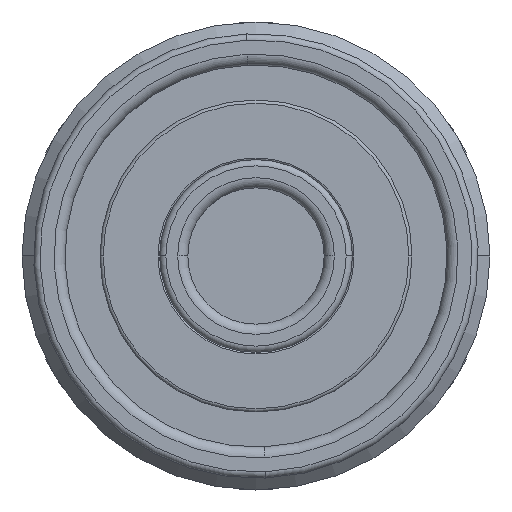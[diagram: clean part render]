
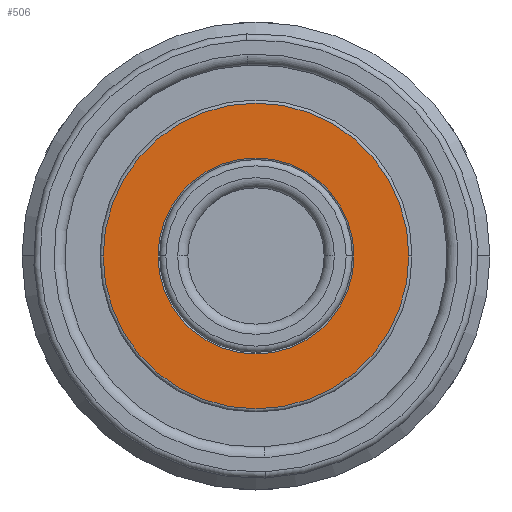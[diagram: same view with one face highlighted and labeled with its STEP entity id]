
A CAD part, front view. The second image highlights one B-rep face of the part: STEP entity #506.
In plain terms, the highlighted planar face has unit normal (0, -1, 0).
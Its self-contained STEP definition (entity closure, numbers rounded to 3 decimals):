
#213=PLANE('',#2199);
#253=FACE_BOUND('',#795,.T.);
#254=FACE_BOUND('',#796,.T.);
#506=ADVANCED_FACE('',(#253,#254),#213,.F.);
#795=EDGE_LOOP('',(#1087,#1088));
#796=EDGE_LOOP('',(#1089,#1090));
#1087=ORIENTED_EDGE('',*,*,#1739,.T.);
#1088=ORIENTED_EDGE('',*,*,#1711,.T.);
#1089=ORIENTED_EDGE('',*,*,#1720,.T.);
#1090=ORIENTED_EDGE('',*,*,#1740,.T.);
#1513=VERTEX_POINT('',#3293);
#1514=VERTEX_POINT('',#3294);
#1521=VERTEX_POINT('',#3311);
#1522=VERTEX_POINT('',#3313);
#1711=EDGE_CURVE('',#1513,#1514,#1959,.T.);
#1720=EDGE_CURVE('',#1522,#1521,#1968,.T.);
#1739=EDGE_CURVE('',#1514,#1513,#1981,.T.);
#1740=EDGE_CURVE('',#1521,#1522,#1982,.T.);
#1959=CIRCLE('',#2164,9.8);
#1968=CIRCLE('',#2175,6.28);
#1981=CIRCLE('',#2197,9.8);
#1982=CIRCLE('',#2198,6.28);
#2164=AXIS2_PLACEMENT_3D('',#3292,#2600,#2601);
#2175=AXIS2_PLACEMENT_3D('',#3312,#2622,#2623);
#2197=AXIS2_PLACEMENT_3D('',#3349,#2672,#2673);
#2198=AXIS2_PLACEMENT_3D('',#3350,#2674,#2675);
#2199=AXIS2_PLACEMENT_3D('',#3351,#2676,#2677);
#2600=DIRECTION('',(0.,-1.,0.));
#2601=DIRECTION('',(-1.,0.,0.));
#2622=DIRECTION('',(0.,1.,0.));
#2623=DIRECTION('',(-1.,0.,0.));
#2672=DIRECTION('',(0.,-1.,0.));
#2673=DIRECTION('',(-1.,0.,0.));
#2674=DIRECTION('',(0.,1.,0.));
#2675=DIRECTION('',(-1.,0.,0.));
#2676=DIRECTION('',(0.,1.,0.));
#2677=DIRECTION('',(-1.,0.,0.));
#3292=CARTESIAN_POINT('',(0.,0.,0.));
#3293=CARTESIAN_POINT('',(9.8,0.,0.));
#3294=CARTESIAN_POINT('',(-9.8,0.,0.));
#3311=CARTESIAN_POINT('',(6.28,0.,0.));
#3312=CARTESIAN_POINT('',(0.,0.,0.));
#3313=CARTESIAN_POINT('',(-6.28,0.,0.));
#3349=CARTESIAN_POINT('',(0.,0.,0.));
#3350=CARTESIAN_POINT('',(0.,0.,0.));
#3351=CARTESIAN_POINT('',(0.,0.,0.));
